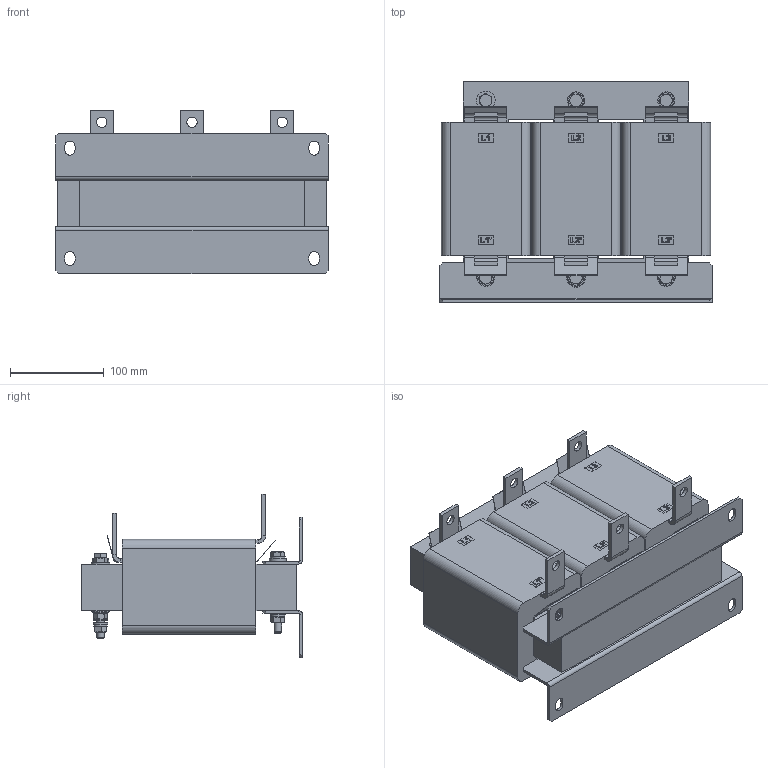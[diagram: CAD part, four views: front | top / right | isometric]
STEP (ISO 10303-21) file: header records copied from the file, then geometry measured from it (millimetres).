
FILE_DESCRIPTION(/* description */ ('raw material description'),/* implementation_level */ '2;1');
FILE_NAME(/* name */ 'P:\Construction\Filter_Marketing\RWK\RWK3044_RWK3062\RWK3044\RWK3044-180-99-E0XXX.stp',/* time_stamp */ '2018-08-27T10:46:30+02:00',/* author */ ('Erika.Jenzer'),/* organization */ ('Schaffner EMV AG'),/* preprocessor_version */ 'ST-DEVELOPER v16.5',/* originating_system */ 'Autodesk Inventor 2017',/* authorisation */ '');
FILE_SCHEMA (('AUTOMOTIVE_DESIGN { 1 0 10303 214 3 1 1 }'));
Length unit declared in the file: millimetre
Products named in the file (1): RWK3044-180-99-E0XXX
Bounding box: 290 x 234.8 x 173.55 mm (x, y, z)
Volume: 5243814.9 mm3; surface area: 409540.9 mm2
Topology: 1 solids, 11 shells, 1033 faces, 2614 edges, 1722 vertices
Faces by surface type: plane 732, cylinder 173, cone 71, bspline 50, torus 7
Full cylindrical faces by diameter (mm): 8 x19, 8.2 x6, 8.4 x14, 9.9 x5, 10.5 x3, 11 x6, 11.6 x6, 13 x1, 16 x12, 18 x5, 20 x2
Entity records: 31356 total; most frequent: CARTESIAN_POINT 6230, ORIENTED_EDGE 4930, DIRECTION 4660, EDGE_CURVE 2458, LINE 1712, VECTOR 1712, VERTEX_POINT 1682, AXIS2_PLACEMENT_3D 1474
